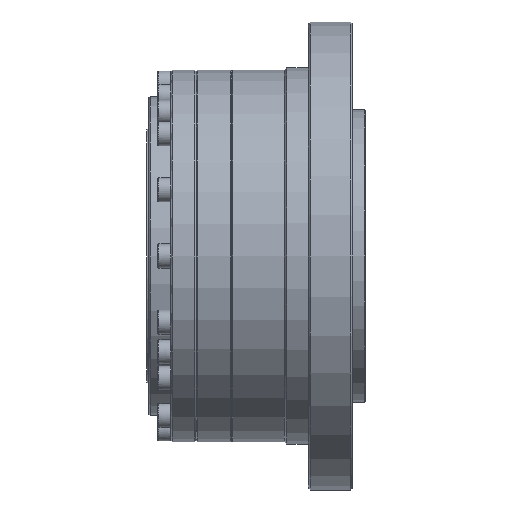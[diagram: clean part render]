
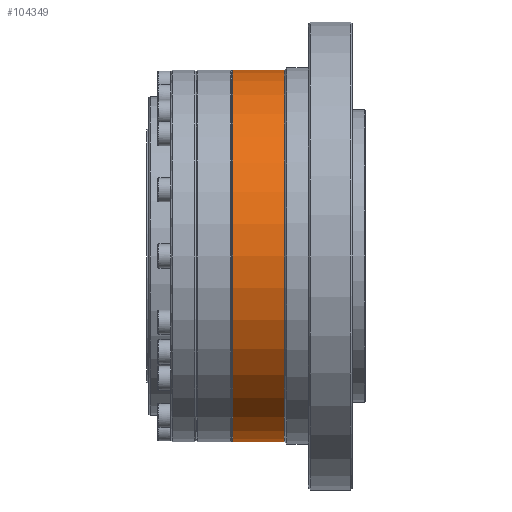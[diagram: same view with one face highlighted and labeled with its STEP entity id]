
A CAD part, front view. The second image highlights one B-rep face of the part: STEP entity #104349.
In plain terms, the highlighted cylindrical face has radius 42.5 mm (diameter 85 mm), a partial arc.
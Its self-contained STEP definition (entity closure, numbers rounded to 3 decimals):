
#1181 = EDGE_CURVE ( 'NONE', #4795, #49009, #30550, .T. ) ;
#2226 = CARTESIAN_POINT ( 'NONE',  ( -23.738, -6.819, 0. ) ) ;
#4128 = CARTESIAN_POINT ( 'NONE',  ( -25.638, -6.819, 42.5 ) ) ;
#4589 = VECTOR ( 'NONE', #22840, 1000. ) ;
#4780 = DIRECTION ( 'NONE',  ( -1., 0., 0. ) ) ;
#4795 = VERTEX_POINT ( 'NONE', #62009 ) ;
#4996 = DIRECTION ( 'NONE',  ( -1., 0., 0. ) ) ;
#10650 = ORIENTED_EDGE ( 'NONE', *, *, #17044, .T. ) ;
#10823 = EDGE_CURVE ( 'NONE', #32191, #11400, #103647, .T. ) ;
#11400 = VERTEX_POINT ( 'NONE', #25990 ) ;
#11417 = AXIS2_PLACEMENT_3D ( 'NONE', #39020, #4996, #48027 ) ;
#14432 = FACE_OUTER_BOUND ( 'NONE', #46576, .T. ) ;
#17044 = EDGE_CURVE ( 'NONE', #11400, #4795, #58636, .T. ) ;
#18372 = ORIENTED_EDGE ( 'NONE', *, *, #10823, .T. ) ;
#19189 = VECTOR ( 'NONE', #4780, 1000. ) ;
#20960 = VERTEX_POINT ( 'NONE', #68084 ) ;
#22840 = DIRECTION ( 'NONE',  ( -1., 0., 0. ) ) ;
#25810 = ORIENTED_EDGE ( 'NONE', *, *, #65241, .F. ) ;
#25990 = CARTESIAN_POINT ( 'NONE',  ( -23.738, -6.819, 42.5 ) ) ;
#28400 = DIRECTION ( 'NONE',  ( 0., 0., 1. ) ) ;
#29109 = AXIS2_PLACEMENT_3D ( 'NONE', #47837, #73214, #107250 ) ;
#30204 = ORIENTED_EDGE ( 'NONE', *, *, #1181, .T. ) ;
#30550 = CIRCLE ( 'NONE', #72259, 42.5 ) ;
#32191 = VERTEX_POINT ( 'NONE', #78991 ) ;
#35905 = DIRECTION ( 'NONE',  ( 1., 0., 0. ) ) ;
#39020 = CARTESIAN_POINT ( 'NONE',  ( -25.638, -6.819, 0. ) ) ;
#39672 = DIRECTION ( 'NONE',  ( 0., 0., 1. ) ) ;
#42716 = CIRCLE ( 'NONE', #29109, 42.5 ) ;
#45961 = LINE ( 'NONE', #55695, #19189 ) ;
#46576 = EDGE_LOOP ( 'NONE', ( #50087, #25810, #18372, #10650, #30204 ) ) ;
#47837 = CARTESIAN_POINT ( 'NONE',  ( -11.938, -6.819, 0. ) ) ;
#48027 = DIRECTION ( 'NONE',  ( 0., 0., 1. ) ) ;
#49009 = VERTEX_POINT ( 'NONE', #94209 ) ;
#50087 = ORIENTED_EDGE ( 'NONE', *, *, #61669, .F. ) ;
#51877 = CYLINDRICAL_SURFACE ( 'NONE', #11417, 42.5 ) ;
#55695 = CARTESIAN_POINT ( 'NONE',  ( -25.638, -6.819, -42.5 ) ) ;
#58636 = CIRCLE ( 'NONE', #77498, 42.5 ) ;
#61669 = EDGE_CURVE ( 'NONE', #20960, #49009, #45961, .T. ) ;
#62009 = CARTESIAN_POINT ( 'NONE',  ( -23.738, -49.319, 0. ) ) ;
#65241 = EDGE_CURVE ( 'NONE', #32191, #20960, #42716, .T. ) ;
#68084 = CARTESIAN_POINT ( 'NONE',  ( -11.938, -6.819, -42.5 ) ) ;
#72259 = AXIS2_PLACEMENT_3D ( 'NONE', #2226, #35905, #28400 ) ;
#73214 = DIRECTION ( 'NONE',  ( 1., 0., 0. ) ) ;
#77498 = AXIS2_PLACEMENT_3D ( 'NONE', #82677, #83777, #39672 ) ;
#78991 = CARTESIAN_POINT ( 'NONE',  ( -11.938, -6.819, 42.5 ) ) ;
#82677 = CARTESIAN_POINT ( 'NONE',  ( -23.738, -6.819, 0. ) ) ;
#83777 = DIRECTION ( 'NONE',  ( 1., 0., 0. ) ) ;
#94209 = CARTESIAN_POINT ( 'NONE',  ( -23.738, -6.819, -42.5 ) ) ;
#103647 = LINE ( 'NONE', #4128, #4589 ) ;
#104349 = ADVANCED_FACE ( 'NONE', ( #14432 ), #51877, .T. ) ;
#107250 = DIRECTION ( 'NONE',  ( 0., 0., -1. ) ) ;
